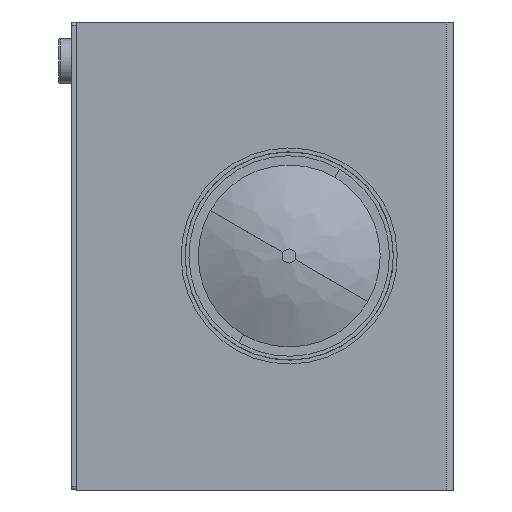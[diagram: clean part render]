
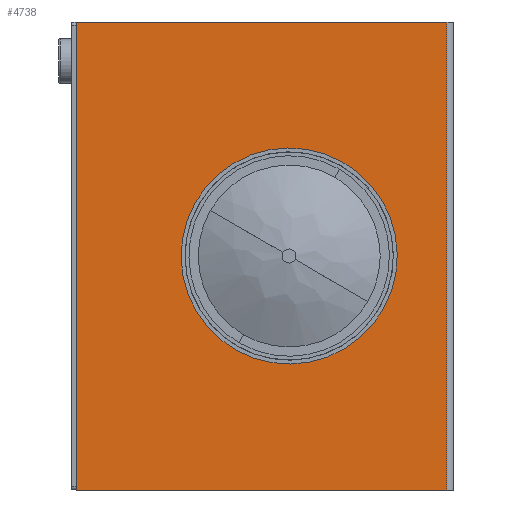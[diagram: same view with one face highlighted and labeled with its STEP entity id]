
A CAD part, left-side view. The second image highlights one B-rep face of the part: STEP entity #4738.
In plain terms, the highlighted planar face has unit normal (-1, 0, 0) as drawn and (1, 0, 0) by its records, which use the part's own axes.
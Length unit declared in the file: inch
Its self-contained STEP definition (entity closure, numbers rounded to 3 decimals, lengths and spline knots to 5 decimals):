
#77 = VECTOR ( 'NONE', #3863, 39.37008 ) ;
#211 = EDGE_CURVE ( 'NONE', #596, #8231, #2409, .T. ) ;
#246 = VECTOR ( 'NONE', #3824, 39.37008 ) ;
#596 = VERTEX_POINT ( 'NONE', #8282 ) ;
#695 = ORIENTED_EDGE ( 'NONE', *, *, #211, .F. ) ;
#710 = EDGE_LOOP ( 'NONE', ( #3483, #3482, #8717, #1858 ) ) ;
#876 = PLANE ( 'NONE',  #2273 ) ;
#1563 = DIRECTION ( 'NONE',  ( -1., 0., 0. ) ) ;
#1643 = LINE ( 'NONE', #3477, #5389 ) ;
#1657 = LINE ( 'NONE', #8699, #246 ) ;
#1858 = ORIENTED_EDGE ( 'NONE', *, *, #4877, .T. ) ;
#1878 = VERTEX_POINT ( 'NONE', #5715 ) ;
#1959 = EDGE_CURVE ( 'NONE', #8231, #596, #5064, .T. ) ;
#2212 = EDGE_CURVE ( 'NONE', #5729, #1878, #4293, .T. ) ;
#2273 = AXIS2_PLACEMENT_3D ( 'NONE', #4301, #1563, #6488 ) ;
#2409 = CIRCLE ( 'NONE', #7078, 7. ) ;
#3014 = CARTESIAN_POINT ( 'NONE',  ( 0., -1.8655, 0. ) ) ;
#3108 = EDGE_LOOP ( 'NONE', ( #8404, #695 ) ) ;
#3477 = CARTESIAN_POINT ( 'NONE',  ( 0., -14., 18. ) ) ;
#3482 = ORIENTED_EDGE ( 'NONE', *, *, #8682, .T. ) ;
#3483 = ORIENTED_EDGE ( 'NONE', *, *, #5078, .T. ) ;
#3693 = CARTESIAN_POINT ( 'NONE',  ( 0., -1.8655, 0. ) ) ;
#3703 = DIRECTION ( 'NONE',  ( 1., 0., 0. ) ) ;
#3824 = DIRECTION ( 'NONE',  ( 0., -1., 0. ) ) ;
#3863 = DIRECTION ( 'NONE',  ( 0., 1., 0. ) ) ;
#3951 = CARTESIAN_POINT ( 'NONE',  ( 0., 14.5, 18. ) ) ;
#4080 = VECTOR ( 'NONE', #8859, 39.37008 ) ;
#4293 = LINE ( 'NONE', #3951, #4080 ) ;
#4301 = CARTESIAN_POINT ( 'NONE',  ( 0., 0., 0. ) ) ;
#4411 = DIRECTION ( 'NONE',  ( 0., 0., -1. ) ) ;
#4424 = DIRECTION ( 'NONE',  ( 0., 0., -1. ) ) ;
#4627 = VERTEX_POINT ( 'NONE', #7068 ) ;
#4722 = AXIS2_PLACEMENT_3D ( 'NONE', #3693, #8636, #4411 ) ;
#4738 = ADVANCED_FACE ( 'NONE', ( #6946, #8595 ), #876, .F. ) ;
#4877 = EDGE_CURVE ( 'NONE', #1878, #5489, #1657, .T. ) ;
#5064 = CIRCLE ( 'NONE', #4722, 7. ) ;
#5078 = EDGE_CURVE ( 'NONE', #5489, #4627, #1643, .T. ) ;
#5389 = VECTOR ( 'NONE', #6979, 39.37008 ) ;
#5458 = LINE ( 'NONE', #8098, #77 ) ;
#5489 = VERTEX_POINT ( 'NONE', #7335 ) ;
#5715 = CARTESIAN_POINT ( 'NONE',  ( 0., 14.5, 18. ) ) ;
#5729 = VERTEX_POINT ( 'NONE', #7582 ) ;
#6488 = DIRECTION ( 'NONE',  ( 0., 0., 1. ) ) ;
#6886 = CARTESIAN_POINT ( 'NONE',  ( 0., -1.8655, -7. ) ) ;
#6946 = FACE_BOUND ( 'NONE', #3108, .T. ) ;
#6979 = DIRECTION ( 'NONE',  ( 0., 0., -1. ) ) ;
#7068 = CARTESIAN_POINT ( 'NONE',  ( 0., -14., -18. ) ) ;
#7078 = AXIS2_PLACEMENT_3D ( 'NONE', #3014, #3703, #4424 ) ;
#7335 = CARTESIAN_POINT ( 'NONE',  ( 0., -14., 18. ) ) ;
#7582 = CARTESIAN_POINT ( 'NONE',  ( 0., 14.5, -18. ) ) ;
#8098 = CARTESIAN_POINT ( 'NONE',  ( 0., -14.5, -18. ) ) ;
#8231 = VERTEX_POINT ( 'NONE', #6886 ) ;
#8282 = CARTESIAN_POINT ( 'NONE',  ( 0., -1.8655, 7. ) ) ;
#8404 = ORIENTED_EDGE ( 'NONE', *, *, #1959, .F. ) ;
#8595 = FACE_OUTER_BOUND ( 'NONE', #710, .T. ) ;
#8636 = DIRECTION ( 'NONE',  ( 1., 0., 0. ) ) ;
#8682 = EDGE_CURVE ( 'NONE', #4627, #5729, #5458, .T. ) ;
#8699 = CARTESIAN_POINT ( 'NONE',  ( 0., -14.5, 18. ) ) ;
#8717 = ORIENTED_EDGE ( 'NONE', *, *, #2212, .T. ) ;
#8859 = DIRECTION ( 'NONE',  ( 0., 0., 1. ) ) ;
